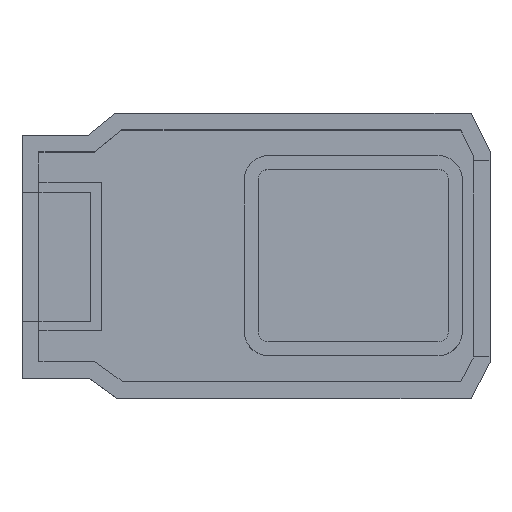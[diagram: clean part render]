
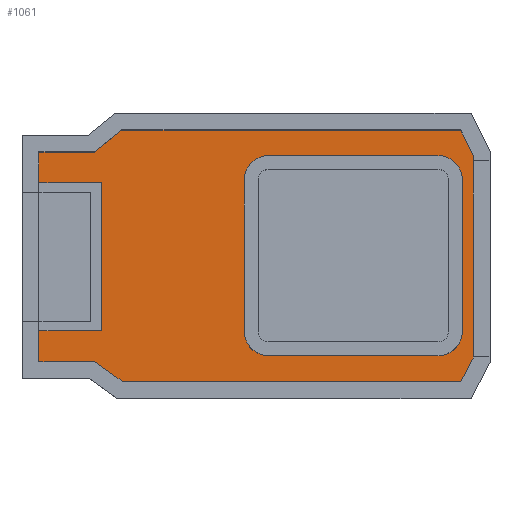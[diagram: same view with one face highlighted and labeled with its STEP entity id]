
A CAD part, top view. The second image highlights one B-rep face of the part: STEP entity #1061.
In plain terms, the highlighted planar face has unit normal (0, 0, 1).
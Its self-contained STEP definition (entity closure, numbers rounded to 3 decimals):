
#23=FACE_BOUND('',#104,.T.);
#25=CIRCLE('',#1126,2.3);
#26=CIRCLE('',#1127,2.3);
#27=CIRCLE('',#1128,2.3);
#28=CIRCLE('',#1129,2.3);
#47=FACE_OUTER_BOUND('',#103,.T.);
#103=EDGE_LOOP('',(#723,#724,#725,#726,#727,#728,#729,#730,#731,#732,#733,
#734,#735,#736));
#104=EDGE_LOOP('',(#737,#738,#739,#740,#741,#742,#743,#744));
#159=LINE('',#1490,#299);
#165=LINE('',#1501,#305);
#167=LINE('',#1506,#307);
#176=LINE('',#1523,#316);
#177=LINE('',#1525,#317);
#178=LINE('',#1527,#318);
#179=LINE('',#1529,#319);
#180=LINE('',#1531,#320);
#181=LINE('',#1533,#321);
#182=LINE('',#1535,#322);
#183=LINE('',#1537,#323);
#184=LINE('',#1539,#324);
#185=LINE('',#1541,#325);
#186=LINE('',#1542,#326);
#187=LINE('',#1547,#327);
#188=LINE('',#1551,#328);
#189=LINE('',#1555,#329);
#190=LINE('',#1558,#330);
#299=VECTOR('',#1201,10.);
#305=VECTOR('',#1209,10.);
#307=VECTOR('',#1213,10.);
#316=VECTOR('',#1228,10.);
#317=VECTOR('',#1229,10.);
#318=VECTOR('',#1230,10.);
#319=VECTOR('',#1231,10.);
#320=VECTOR('',#1232,10.);
#321=VECTOR('',#1233,10.);
#322=VECTOR('',#1234,10.);
#323=VECTOR('',#1235,10.);
#324=VECTOR('',#1236,10.);
#325=VECTOR('',#1237,10.);
#326=VECTOR('',#1238,10.);
#327=VECTOR('',#1241,10.);
#328=VECTOR('',#1244,10.);
#329=VECTOR('',#1247,10.);
#330=VECTOR('',#1250,10.);
#439=VERTEX_POINT('',#1488);
#440=VERTEX_POINT('',#1489);
#444=VERTEX_POINT('',#1498);
#445=VERTEX_POINT('',#1503);
#451=VERTEX_POINT('',#1522);
#452=VERTEX_POINT('',#1524);
#453=VERTEX_POINT('',#1526);
#454=VERTEX_POINT('',#1528);
#455=VERTEX_POINT('',#1530);
#456=VERTEX_POINT('',#1532);
#457=VERTEX_POINT('',#1534);
#458=VERTEX_POINT('',#1536);
#459=VERTEX_POINT('',#1538);
#460=VERTEX_POINT('',#1540);
#461=VERTEX_POINT('',#1543);
#462=VERTEX_POINT('',#1544);
#463=VERTEX_POINT('',#1546);
#464=VERTEX_POINT('',#1548);
#465=VERTEX_POINT('',#1550);
#466=VERTEX_POINT('',#1552);
#467=VERTEX_POINT('',#1554);
#468=VERTEX_POINT('',#1556);
#543=EDGE_CURVE('',#439,#440,#159,.T.);
#549=EDGE_CURVE('',#444,#439,#165,.T.);
#551=EDGE_CURVE('',#440,#445,#167,.T.);
#560=EDGE_CURVE('',#451,#445,#176,.F.);
#561=EDGE_CURVE('',#452,#451,#177,.F.);
#562=EDGE_CURVE('',#453,#452,#178,.F.);
#563=EDGE_CURVE('',#454,#453,#179,.F.);
#564=EDGE_CURVE('',#455,#454,#180,.F.);
#565=EDGE_CURVE('',#456,#455,#181,.F.);
#566=EDGE_CURVE('',#457,#456,#182,.F.);
#567=EDGE_CURVE('',#458,#457,#183,.F.);
#568=EDGE_CURVE('',#459,#458,#184,.F.);
#569=EDGE_CURVE('',#460,#459,#185,.F.);
#570=EDGE_CURVE('',#444,#460,#186,.F.);
#571=EDGE_CURVE('',#461,#462,#25,.T.);
#572=EDGE_CURVE('',#462,#463,#187,.T.);
#573=EDGE_CURVE('',#463,#464,#26,.T.);
#574=EDGE_CURVE('',#464,#465,#188,.T.);
#575=EDGE_CURVE('',#465,#466,#27,.T.);
#576=EDGE_CURVE('',#466,#467,#189,.T.);
#577=EDGE_CURVE('',#467,#468,#28,.T.);
#578=EDGE_CURVE('',#468,#461,#190,.T.);
#723=ORIENTED_EDGE('',*,*,#549,.T.);
#724=ORIENTED_EDGE('',*,*,#543,.T.);
#725=ORIENTED_EDGE('',*,*,#551,.T.);
#726=ORIENTED_EDGE('',*,*,#560,.F.);
#727=ORIENTED_EDGE('',*,*,#561,.F.);
#728=ORIENTED_EDGE('',*,*,#562,.F.);
#729=ORIENTED_EDGE('',*,*,#563,.F.);
#730=ORIENTED_EDGE('',*,*,#564,.F.);
#731=ORIENTED_EDGE('',*,*,#565,.F.);
#732=ORIENTED_EDGE('',*,*,#566,.F.);
#733=ORIENTED_EDGE('',*,*,#567,.F.);
#734=ORIENTED_EDGE('',*,*,#568,.F.);
#735=ORIENTED_EDGE('',*,*,#569,.F.);
#736=ORIENTED_EDGE('',*,*,#570,.F.);
#737=ORIENTED_EDGE('',*,*,#571,.T.);
#738=ORIENTED_EDGE('',*,*,#572,.T.);
#739=ORIENTED_EDGE('',*,*,#573,.T.);
#740=ORIENTED_EDGE('',*,*,#574,.T.);
#741=ORIENTED_EDGE('',*,*,#575,.T.);
#742=ORIENTED_EDGE('',*,*,#576,.T.);
#743=ORIENTED_EDGE('',*,*,#577,.T.);
#744=ORIENTED_EDGE('',*,*,#578,.T.);
#1013=PLANE('',#1125);
#1061=ADVANCED_FACE('',(#47,#23),#1013,.F.);
#1125=AXIS2_PLACEMENT_3D('',#1521,#1226,#1227);
#1126=AXIS2_PLACEMENT_3D('',#1545,#1239,#1240);
#1127=AXIS2_PLACEMENT_3D('',#1549,#1242,#1243);
#1128=AXIS2_PLACEMENT_3D('',#1553,#1245,#1246);
#1129=AXIS2_PLACEMENT_3D('',#1557,#1248,#1249);
#1201=DIRECTION('',(0.,-1.,0.));
#1209=DIRECTION('',(1.,0.,0.));
#1213=DIRECTION('',(-1.,0.,0.));
#1226=DIRECTION('center_axis',(0.,0.,-1.));
#1227=DIRECTION('ref_axis',(-1.,0.,0.));
#1228=DIRECTION('',(0.,-1.,0.));
#1229=DIRECTION('',(1.,0.,0.));
#1230=DIRECTION('',(0.812,-0.584,0.));
#1231=DIRECTION('',(1.,0.,0.));
#1232=DIRECTION('',(0.461,0.887,0.));
#1233=DIRECTION('',(0.,1.,0.));
#1234=DIRECTION('',(-0.446,0.895,0.));
#1235=DIRECTION('',(-1.,0.,0.));
#1236=DIRECTION('',(-0.779,-0.627,0.));
#1237=DIRECTION('',(-1.,0.,0.));
#1238=DIRECTION('',(0.,-1.,0.));
#1239=DIRECTION('center_axis',(0.,0.,-1.));
#1240=DIRECTION('ref_axis',(1.,0.,0.));
#1241=DIRECTION('',(0.,-1.,0.));
#1242=DIRECTION('center_axis',(0.,0.,-1.));
#1243=DIRECTION('ref_axis',(0.,-1.,0.));
#1244=DIRECTION('',(-1.,0.,0.));
#1245=DIRECTION('center_axis',(0.,0.,-1.));
#1246=DIRECTION('ref_axis',(-1.,0.,0.));
#1247=DIRECTION('',(0.,1.,0.));
#1248=DIRECTION('center_axis',(0.,0.,-1.));
#1249=DIRECTION('ref_axis',(0.,1.,0.));
#1250=DIRECTION('',(1.,0.,0.));
#1488=CARTESIAN_POINT('',(33.453,0.089,-46.384));
#1489=CARTESIAN_POINT('',(33.453,-13.911,-46.384));
#1490=CARTESIAN_POINT('',(33.453,-10.38,-46.384));
#1498=CARTESIAN_POINT('',(27.553,0.089,-46.384));
#1501=CARTESIAN_POINT('',(40.273,0.089,-46.384));
#1503=CARTESIAN_POINT('',(27.553,-13.911,-46.384));
#1506=CARTESIAN_POINT('',(37.773,-13.911,-46.384));
#1521=CARTESIAN_POINT('Origin',(48.094,-6.848,-46.384));
#1522=CARTESIAN_POINT('',(27.553,-16.811,-46.384));
#1523=CARTESIAN_POINT('',(27.553,-12.63,-46.384));
#1524=CARTESIAN_POINT('',(32.824,-16.811,-46.384));
#1525=CARTESIAN_POINT('',(40.201,-16.811,-46.384));
#1526=CARTESIAN_POINT('',(35.499,-18.736,-46.384));
#1527=CARTESIAN_POINT('',(37.039,-19.845,-46.384));
#1528=CARTESIAN_POINT('',(67.407,-18.736,-46.384));
#1529=CARTESIAN_POINT('',(58.236,-18.736,-46.384));
#1530=CARTESIAN_POINT('',(68.564,-16.509,-46.384));
#1531=CARTESIAN_POINT('',(68.455,-16.719,-46.384));
#1532=CARTESIAN_POINT('',(68.564,2.683,-46.384));
#1533=CARTESIAN_POINT('',(68.564,-1.895,-46.384));
#1534=CARTESIAN_POINT('',(67.379,5.064,-46.384));
#1535=CARTESIAN_POINT('',(67.619,4.581,-46.384));
#1536=CARTESIAN_POINT('',(35.393,5.064,-46.384));
#1537=CARTESIAN_POINT('',(41.462,5.064,-46.384));
#1538=CARTESIAN_POINT('',(32.812,2.989,-46.384));
#1539=CARTESIAN_POINT('',(35.271,4.966,-46.384));
#1540=CARTESIAN_POINT('',(27.553,2.989,-46.384));
#1541=CARTESIAN_POINT('',(37.023,2.989,-46.384));
#1542=CARTESIAN_POINT('',(27.553,-12.63,-46.384));
#1543=CARTESIAN_POINT('',(65.252,2.648,-46.384));
#1544=CARTESIAN_POINT('',(67.552,0.348,-46.384));
#1545=CARTESIAN_POINT('Origin',(65.252,0.348,-46.384));
#1546=CARTESIAN_POINT('',(67.552,-13.952,-46.384));
#1547=CARTESIAN_POINT('',(67.552,-10.4,-46.384));
#1548=CARTESIAN_POINT('',(65.252,-16.252,-46.384));
#1549=CARTESIAN_POINT('Origin',(65.252,-13.952,-46.384));
#1550=CARTESIAN_POINT('',(49.252,-16.252,-46.384));
#1551=CARTESIAN_POINT('',(48.673,-16.252,-46.384));
#1552=CARTESIAN_POINT('',(46.952,-13.952,-46.384));
#1553=CARTESIAN_POINT('Origin',(49.252,-13.952,-46.384));
#1554=CARTESIAN_POINT('',(46.952,0.348,-46.384));
#1555=CARTESIAN_POINT('',(46.952,-3.25,-46.384));
#1556=CARTESIAN_POINT('',(49.252,2.648,-46.384));
#1557=CARTESIAN_POINT('Origin',(49.252,0.348,-46.384));
#1558=CARTESIAN_POINT('',(56.673,2.648,-46.384));
